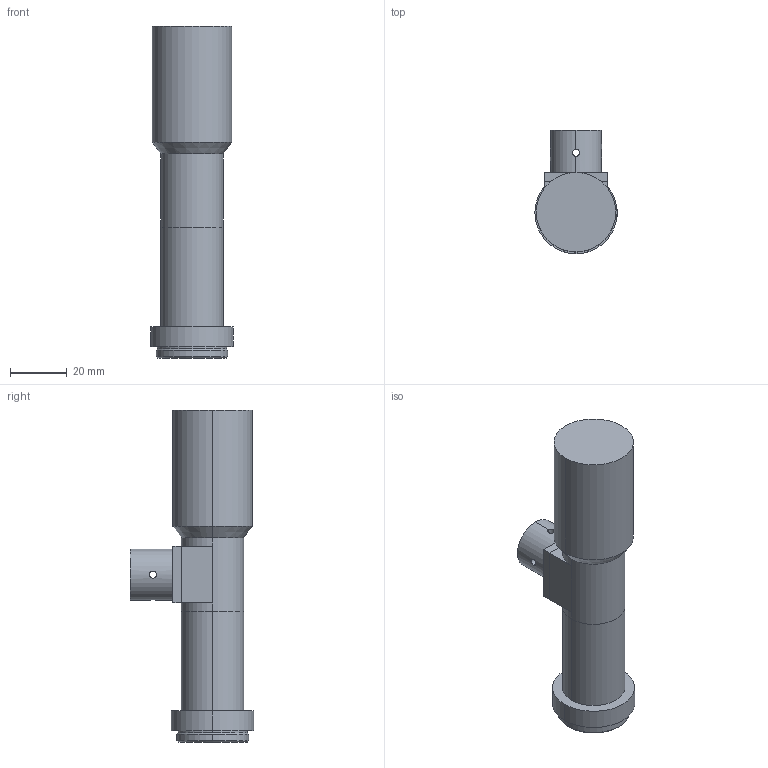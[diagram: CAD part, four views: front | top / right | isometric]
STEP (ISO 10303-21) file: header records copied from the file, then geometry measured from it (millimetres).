
FILE_DESCRIPTION (( 'STEP AP214' ), '1' );
FILE_NAME ('DH250-1T28X.step', '2023-07-23T02:25:04', ( '' ), ( '' ), 'SwSTEP 2.0', 'SolidWorks 2016', '' );
FILE_SCHEMA (( 'AUTOMOTIVE_DESIGN' ));
Length unit declared in the file: millimetre
Products named in the file (1): DH250-1T28X
Bounding box: 29 x 43.5 x 117 mm (x, y, z)
Volume: 61589.4 mm3; surface area: 15582.4 mm2
Topology: 5 solids, 5 shells, 63 faces, 147 edges, 91 vertices
Faces by surface type: cylinder 31, plane 24, cone 8
Entity records: 2291 total; most frequent: CARTESIAN_POINT 666, DIRECTION 297, ORIENTED_EDGE 290, EDGE_CURVE 145, AXIS2_PLACEMENT_3D 114, VERTEX_POINT 91, EDGE_LOOP 74, LINE 69
